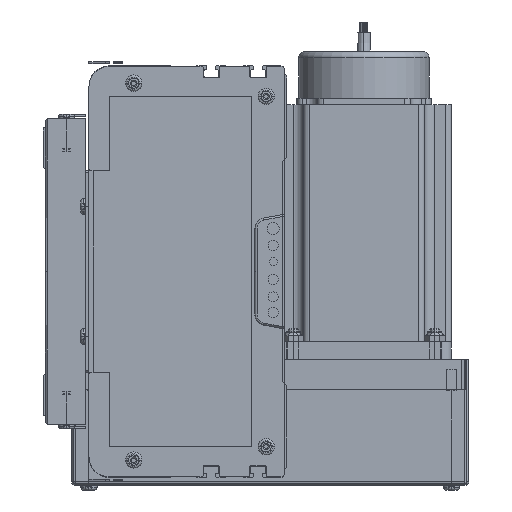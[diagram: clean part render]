
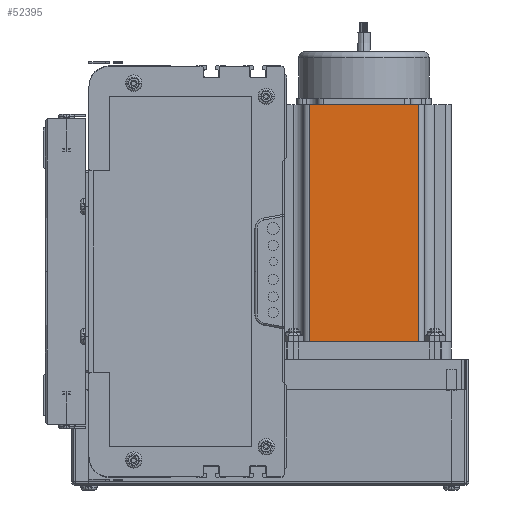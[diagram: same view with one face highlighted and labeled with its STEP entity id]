
A CAD part, left-side view. The second image highlights one B-rep face of the part: STEP entity #52395.
In plain terms, the highlighted planar face has unit normal (-1, 0, 0) as drawn and (0, -1, 0) by its records, which use the part's own axes.
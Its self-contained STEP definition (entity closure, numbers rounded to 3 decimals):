
#52324 = EDGE_LOOP ( 'NONE', ( #52436, #52363, #52370, #52377 ) ) ;
#52363 = ORIENTED_EDGE ( 'NONE', *, *, #52437, .T. ) ;
#52364 = EDGE_CURVE ( 'NONE', #52434, #52551, #59641, .T. ) ;
#52370 = ORIENTED_EDGE ( 'NONE', *, *, #52364, .F. ) ;
#52371 = EDGE_CURVE ( 'NONE', #52434, #52533, #59621, .T. ) ;
#52377 = ORIENTED_EDGE ( 'NONE', *, *, #52371, .T. ) ;
#52392 = EDGE_CURVE ( 'NONE', #52533, #52542, #59780, .T. ) ;
#52395 = ADVANCED_FACE ( 'NONE', ( #59779 ), #59770, .F. ) ;
#52434 = VERTEX_POINT ( 'NONE', #59873 ) ;
#52436 = ORIENTED_EDGE ( 'NONE', *, *, #52392, .T. ) ;
#52437 = EDGE_CURVE ( 'NONE', #52542, #52551, #59910, .T. ) ;
#52533 = VERTEX_POINT ( 'NONE', #60328 ) ;
#52542 = VERTEX_POINT ( 'NONE', #60308 ) ;
#52551 = VERTEX_POINT ( 'NONE', #60445 ) ;
#59596 = DIRECTION ( 'NONE',  ( 1., 0., 0. ) ) ;
#59598 = VECTOR ( 'NONE', #59596, 1000. ) ;
#59603 = DIRECTION ( 'NONE',  ( 0., 0., -1. ) ) ;
#59617 = CARTESIAN_POINT ( 'NONE',  ( 0., 0., 116.5 ) ) ;
#59619 = CARTESIAN_POINT ( 'NONE',  ( 16.16, 0., 116.5 ) ) ;
#59621 = LINE ( 'NONE', #59619, #59634 ) ;
#59634 = VECTOR ( 'NONE', #59603, 1000. ) ;
#59641 = LINE ( 'NONE', #59617, #59598 ) ;
#59733 = DIRECTION ( 'NONE',  ( 0., 0., 1. ) ) ;
#59736 = DIRECTION ( 'NONE',  ( 0., 1., 0. ) ) ;
#59737 = CARTESIAN_POINT ( 'NONE',  ( 0., 0., 116.5 ) ) ;
#59763 = DIRECTION ( 'NONE',  ( 1., 0., 0. ) ) ;
#59765 = VECTOR ( 'NONE', #59763, 1000. ) ;
#59767 = CARTESIAN_POINT ( 'NONE',  ( 0., 0., 0. ) ) ;
#59770 = PLANE ( 'NONE',  #59785 ) ;
#59779 = FACE_OUTER_BOUND ( 'NONE', #52324, .T. ) ;
#59780 = LINE ( 'NONE', #59767, #59765 ) ;
#59785 = AXIS2_PLACEMENT_3D ( 'NONE', #59737, #59736, #59733 ) ;
#59873 = CARTESIAN_POINT ( 'NONE',  ( 16.16, 0., 116.5 ) ) ;
#59909 = CARTESIAN_POINT ( 'NONE',  ( 69.74, 0., 116.5 ) ) ;
#59910 = LINE ( 'NONE', #59909, #59982 ) ;
#59981 = DIRECTION ( 'NONE',  ( 0., 0., 1. ) ) ;
#59982 = VECTOR ( 'NONE', #59981, 1000. ) ;
#60308 = CARTESIAN_POINT ( 'NONE',  ( 69.74, 0., 0. ) ) ;
#60328 = CARTESIAN_POINT ( 'NONE',  ( 16.16, 0., 0. ) ) ;
#60445 = CARTESIAN_POINT ( 'NONE',  ( 69.74, 0., 116.5 ) ) ;
